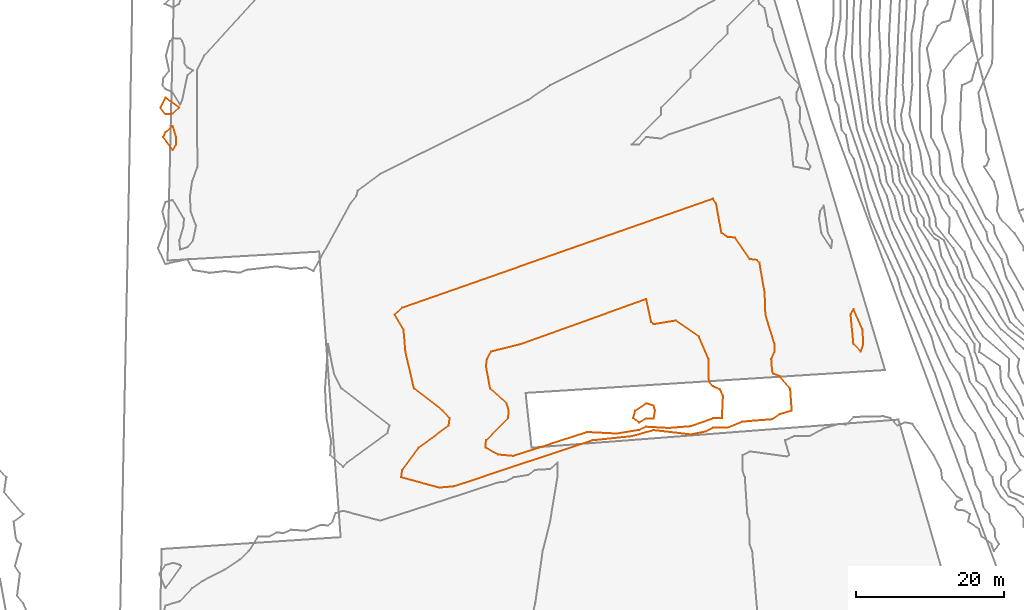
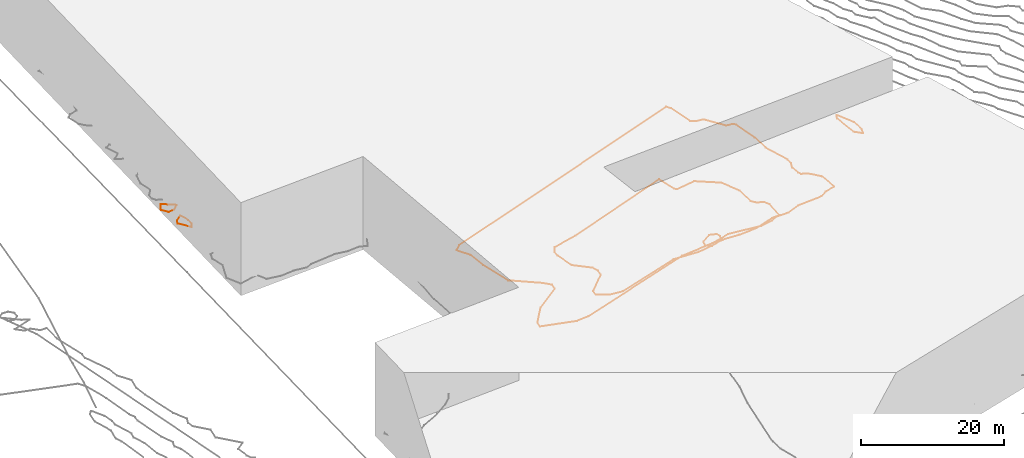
# Not in any storey, part 310 of 419: 6 proxies.
"""IFC2X3 model written with IfcOpenShell, lengths in metres."""

from ifc_helpers import new_model, entity, si_unit, frame, origin_with_axes, place, context, subcontext, project, element, save


model = new_model("IFC2X3")

# Units and contexts
model_context = context("Model", 3, precision=1e-05, world=origin_with_axes())
body_context = subcontext(model_context, "Body", "Model", "MODEL_VIEW")
ifc_project = project(units=[si_unit("AREAUNIT", "SQUARE_METRE"), si_unit("LENGTHUNIT", "METRE")], contexts=[model_context])

# Proxies
proxy_1_placement = place(None, frame((203.4170186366, 988.8976909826, 31.0), z_axis=(0.0, 0.0, 1.0), x_axis=(1.0, 0.0, 0.0)))
element("IfcBuildingElementProxy", 1, at=proxy_1_placement, Name="Contour 31.0 m", ObjectType="NOTDEFINED", context=body_context, shape_type="GeometricCurveSet", body=[
    entity("IfcGeometricCurveSet", [entity("IfcPolyline", [entity("IfcCartesianPoint", [2.5211533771, 0.0, 0.0]), entity("IfcCartesianPoint", [1.6750017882, -0.8461515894, 0.0]), entity("IfcCartesianPoint", [0.6750017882, -0.9310331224, 0.0]), entity("IfcCartesianPoint", [0.0, 0.0, 0.0]), entity("IfcCartesianPoint", [0.6750017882, 1.3000057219, 0.0]), entity("IfcCartesianPoint", [2.5211533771, 0.0, 0.0])])]),
])
proxy_2_placement = place(None, frame((203.8063022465, 984.8976909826, 31.0), z_axis=(0.0, 0.0, 1.0), x_axis=(1.0, 0.0, 0.0)))
element("IfcBuildingElementProxy", 2, at=proxy_2_placement, Name="Contour 31.0 m", ObjectType="NOTDEFINED", context=body_context, shape_type="GeometricCurveSet", body=[
    entity("IfcGeometricCurveSet", [entity("IfcPolyline", [entity("IfcCartesianPoint", [1.7142896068, -1.0, 0.0]), entity("IfcCartesianPoint", [1.2857181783, -1.75, 0.0]), entity("IfcCartesianPoint", [0.0, 0.0, 0.0]), entity("IfcCartesianPoint", [0.2857181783, 0.666666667, 0.0]), entity("IfcCartesianPoint", [1.2857181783, 1.5000499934, 0.0]), entity("IfcCartesianPoint", [1.7301720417, 0.0, 0.0]), entity("IfcCartesianPoint", [1.7142896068, -1.0, 0.0])])]),
])
proxy_3_placement = place(None, frame((296.7170114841, 960.8976909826, 31.0), z_axis=(0.0, 0.0, 1.0), x_axis=(1.0, 0.0, 0.0)))
element("IfcBuildingElementProxy", 3, at=proxy_3_placement, Name="Contour 31.0 m", ObjectType="NOTDEFINED", context=body_context, shape_type="GeometricCurveSet", body=[
    entity("IfcGeometricCurveSet", [entity("IfcPolyline", [entity("IfcCartesianPoint", [1.3750256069, -5.0, 0.0]), entity("IfcCartesianPoint", [0.3749998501, -4.0, 0.0]), entity("IfcCartesianPoint", [0.0, 0.0, 0.0]), entity("IfcCartesianPoint", [0.3750089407, 0.75, 0.0]), entity("IfcCartesianPoint", [1.6057815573, -2.0, 0.0]), entity("IfcCartesianPoint", [1.7083475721, -4.0, 0.0]), entity("IfcCartesianPoint", [1.3750256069, -5.0, 0.0])])]),
])
proxy_4_placement = place(None, frame((267.3142473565, 946.8976909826, 28.0), z_axis=(0.0, 0.0, 1.0), x_axis=(1.0, 0.0, 0.0)))
element("IfcBuildingElementProxy", 4, at=proxy_4_placement, Name="Contour 28.0 m", ObjectType="NOTDEFINED", context=body_context, shape_type="GeometricCurveSet", body=[
    entity("IfcGeometricCurveSet", [entity("IfcPolyline", [entity("IfcCartesianPoint", [2.7777730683, -0.0289861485, 0.0]), entity("IfcCartesianPoint", [2.9595944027, 1.0, 0.0]), entity("IfcCartesianPoint", [2.7777730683, 1.666666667, 0.0]), entity("IfcCartesianPoint", [1.7777730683, 1.9999800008, 0.0]), entity("IfcCartesianPoint", [0.2778230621, 1.0, 0.0]), entity("IfcCartesianPoint", [0.0, 0.0, 0.0]), entity("IfcCartesianPoint", [0.7777730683, -0.5833359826, 0.0]), entity("IfcCartesianPoint", [1.7777730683, -0.0506340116, 0.0]), entity("IfcCartesianPoint", [2.7777730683, -0.0289861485, 0.0])])]),
])
proxy_5_placement = place(None, frame((247.3420263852, 942.8976909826, 29.0), z_axis=(0.0, 0.0, 1.0), x_axis=(1.0, 0.0, 0.0)))
element("IfcBuildingElementProxy", 5, at=proxy_5_placement, Name="Contour 29.0 m", ObjectType="NOTDEFINED", context=body_context, shape_type="GeometricCurveSet", body=[
    entity("IfcGeometricCurveSet", [entity("IfcPolyline", [entity("IfcCartesianPoint", [3.7499940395, -1.1093746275, 0.0]), entity("IfcCartesianPoint", [13.7499940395, 2.1111118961, 0.0]), entity("IfcCartesianPoint", [17.7499940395, 1.9090907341, 0.0]), entity("IfcCartesianPoint", [20.7499940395, 2.4135800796, 0.0]), entity("IfcCartesianPoint", [21.7499940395, 2.8322147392, 0.0]), entity("IfcCartesianPoint", [24.7499940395, 2.663677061, 0.0]), entity("IfcCartesianPoint", [27.7499940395, 2.8977272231, 0.0]), entity("IfcCartesianPoint", [30.7499940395, 3.9740253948, 0.0]), entity("IfcCartesianPoint", [31.9807666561, 4.0, 0.0]), entity("IfcCartesianPoint", [32.1184124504, 7.0, 0.0]), entity("IfcCartesianPoint", [31.7499940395, 7.8749970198, 0.0]), entity("IfcCartesianPoint", [30.7499940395, 8.3000057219, 0.0]), entity("IfcCartesianPoint", [30.2115313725, 9.0, 0.0]), entity("IfcCartesianPoint", [30.1666580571, 12.0, 0.0]), entity("IfcCartesianPoint", [28.8611075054, 15.0, 0.0]), entity("IfcCartesianPoint", [25.7499940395, 17.2000038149, 0.0]), entity("IfcCartesianPoint", [22.7499940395, 16.6999942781, 0.0]), entity("IfcCartesianPoint", [22.416653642, 17.0, 0.0]), entity("IfcCartesianPoint", [21.7499940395, 20.100001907, 0.0]), entity("IfcCartesianPoint", [4.7499940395, 13.9999900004, 0.0]), entity("IfcCartesianPoint", [0.7499940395, 12.999983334, 0.0]), entity("IfcCartesianPoint", [0.2045379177, 12.0, 0.0]), entity("IfcCartesianPoint", [0.0833344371, 11.0, 0.0]), entity("IfcCartesianPoint", [0.6499921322, 8.0, 0.0]), entity("IfcCartesianPoint", [2.8499959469, 6.0, 0.0]), entity("IfcCartesianPoint", [3.1666580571, 5.0, 0.0]), entity("IfcCartesianPoint", [3.0576908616, 4.0, 0.0]), entity("IfcCartesianPoint", [0.083332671, 1.0, 0.0]), entity("IfcCartesianPoint", [0.0, 0.0, 0.0]), entity("IfcCartesianPoint", [1.7499940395, -0.9285694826, 0.0]), entity("IfcCartesianPoint", [3.7499940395, -1.1093746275, 0.0])])]),
])
proxy_6_placement = place(None, frame((235.0920295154, 960.8976909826, 30.0), z_axis=(0.0, 0.0, 1.0), x_axis=(1.0, 0.0, 0.0)))
element("IfcBuildingElementProxy", 6, at=proxy_6_placement, Name="Contour 30.0 m", ObjectType="NOTDEFINED", context=body_context, shape_type="GeometricCurveSet", body=[
    entity("IfcGeometricCurveSet", [entity("IfcPolyline", [entity("IfcCartesianPoint", [7.9999909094, -23.2153838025, 0.0]), entity("IfcCartesianPoint", [26.739123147, -17.0, 0.0]), entity("IfcCartesianPoint", [31.9999909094, -16.445945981, 0.0]), entity("IfcCartesianPoint", [34.9999909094, -15.6273582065, 0.0]), entity("IfcCartesianPoint", [39.9999909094, -16.2079202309, 0.0]), entity("IfcCartesianPoint", [41.9999909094, -15.8099994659, 0.0]), entity("IfcCartesianPoint", [42.9999909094, -15.3086421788, 0.0]), entity("IfcCartesianPoint", [44.9999909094, -15.289473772, 0.0]), entity("IfcCartesianPoint", [46.9999909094, -14.4695653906, 0.0]), entity("IfcCartesianPoint", [50.9999909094, -14.1546388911, 0.0]), entity("IfcCartesianPoint", [51.9999909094, -13.4565206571, 0.0]), entity("IfcCartesianPoint", [53.6666505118, -13.0, 0.0]), entity("IfcCartesianPoint", [53.4545347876, -10.0, 0.0]), entity("IfcCartesianPoint", [51.9999909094, -8.3124955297, 0.0]), entity("IfcCartesianPoint", [51.1666628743, -8.0, 0.0]), entity("IfcCartesianPoint", [50.9999909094, -7.5000499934, 0.0]), entity("IfcCartesianPoint", [50.9047510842, -6.0, 0.0]), entity("IfcCartesianPoint", [51.3157798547, -5.0, 0.0]), entity("IfcCartesianPoint", [51.3333295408, -4.0, 0.0]), entity("IfcCartesianPoint", [50.1111043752, 0.0, 0.0]), entity("IfcCartesianPoint", [49.9999818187, 3.0, 0.0]), entity("IfcCartesianPoint", [49.2999966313, 7.0, 0.0]), entity("IfcCartesianPoint", [48.9999909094, 7.3750089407, 0.0]), entity("IfcCartesianPoint", [47.9999909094, 7.499983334, 0.0]), entity("IfcCartesianPoint", [45.9999909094, 10.4000000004, 0.0]), entity("IfcCartesianPoint", [44.9999909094, 10.4999900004, 0.0]), entity("IfcCartesianPoint", [44.1666628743, 11.0, 0.0]), entity("IfcCartesianPoint", [43.4444447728, 15.0, 0.0]), entity("IfcCartesianPoint", [42.9999909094, 15.666666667, 0.0]), entity("IfcCartesianPoint", [0.9999909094, 0.9166653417, 0.0]), entity("IfcCartesianPoint", [0.0, 0.0, 0.0]), entity("IfcCartesianPoint", [1.1818122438, -2.0, 0.0]), entity("IfcCartesianPoint", [1.4444447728, -5.0, 0.0]), entity("IfcCartesianPoint", [2.5999832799, -10.0, 0.0]), entity("IfcCartesianPoint", [6.5000009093, -13.0, 0.0]), entity("IfcCartesianPoint", [7.416654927, -14.0, 0.0]), entity("IfcCartesianPoint", [7.2857090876, -15.0, 0.0]), entity("IfcCartesianPoint", [3.2307635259, -18.0, 0.0]), entity("IfcCartesianPoint", [0.9999992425, -21.0, 0.0]), entity("IfcCartesianPoint", [0.8571298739, -22.0, 0.0]), entity("IfcCartesianPoint", [5.9999909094, -23.3999974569, 0.0]), entity("IfcCartesianPoint", [7.9999909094, -23.2153838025, 0.0])])]),
])

save(model, "model.ifc")
